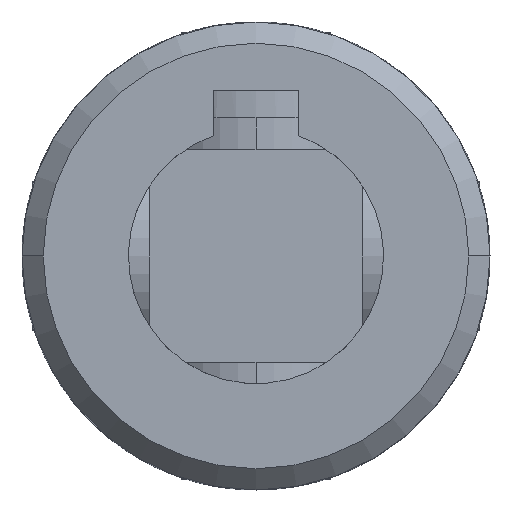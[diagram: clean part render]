
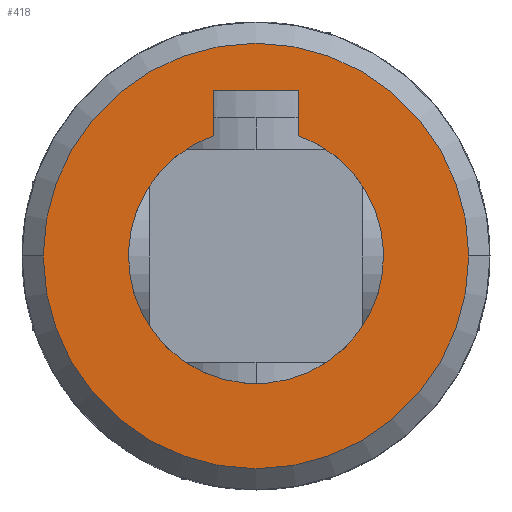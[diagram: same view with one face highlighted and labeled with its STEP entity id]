
A CAD part, left-side view. The second image highlights one B-rep face of the part: STEP entity #418.
In plain terms, the highlighted planar face has unit normal (-1, 0, 0).
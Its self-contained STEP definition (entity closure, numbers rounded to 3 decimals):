
#25 = CIRCLE ( 'NONE', #1665, 10. ) ;
#51 = CARTESIAN_POINT ( 'NONE',  ( 0., -2., 5.657 ) ) ;
#105 = CARTESIAN_POINT ( 'NONE',  ( 0., 0., 0. ) ) ;
#125 = VECTOR ( 'NONE', #1000, 1000. ) ;
#154 = EDGE_CURVE ( 'NONE', #2074, #1970, #820, .T. ) ;
#169 = ORIENTED_EDGE ( 'NONE', *, *, #846, .F. ) ;
#249 = CARTESIAN_POINT ( 'NONE',  ( 0., -10., 0. ) ) ;
#289 = CARTESIAN_POINT ( 'NONE',  ( 0., 2., 7.8 ) ) ;
#347 = VECTOR ( 'NONE', #2053, 1000. ) ;
#369 = VERTEX_POINT ( 'NONE', #2143 ) ;
#373 = CARTESIAN_POINT ( 'NONE',  ( 0., 0., 0. ) ) ;
#417 = DIRECTION ( 'NONE',  ( -1., 0., 0. ) ) ;
#418 = ADVANCED_FACE ( 'NONE', ( #1854, #671 ), #853, .T. ) ;
#538 = ORIENTED_EDGE ( 'NONE', *, *, #1618, .F. ) ;
#566 = AXIS2_PLACEMENT_3D ( 'NONE', #373, #417, #2175 ) ;
#584 = ORIENTED_EDGE ( 'NONE', *, *, #154, .F. ) ;
#652 = CARTESIAN_POINT ( 'NONE',  ( 0., 2., 5.657 ) ) ;
#671 = FACE_OUTER_BOUND ( 'NONE', #1383, .T. ) ;
#808 = CARTESIAN_POINT ( 'NONE',  ( 0., 2., 5.657 ) ) ;
#820 = CIRCLE ( 'NONE', #1781, 10. ) ;
#840 = ORIENTED_EDGE ( 'NONE', *, *, #1099, .F. ) ;
#846 = EDGE_CURVE ( 'NONE', #1296, #2311, #1890, .T. ) ;
#853 = PLANE ( 'NONE',  #1444 ) ;
#892 = DIRECTION ( 'NONE',  ( -1., 0., 0. ) ) ;
#971 = EDGE_CURVE ( 'NONE', #369, #1116, #1706, .T. ) ;
#994 = ORIENTED_EDGE ( 'NONE', *, *, #1600, .F. ) ;
#1000 = DIRECTION ( 'NONE',  ( 0., 0., 1. ) ) ;
#1099 = EDGE_CURVE ( 'NONE', #1116, #1296, #1584, .T. ) ;
#1116 = VERTEX_POINT ( 'NONE', #2137 ) ;
#1132 = VECTOR ( 'NONE', #2157, 1000. ) ;
#1252 = CARTESIAN_POINT ( 'NONE',  ( 0., 0., 0. ) ) ;
#1296 = VERTEX_POINT ( 'NONE', #808 ) ;
#1349 = CARTESIAN_POINT ( 'NONE',  ( 0., -2., 5.657 ) ) ;
#1383 = EDGE_LOOP ( 'NONE', ( #584, #994 ) ) ;
#1444 = AXIS2_PLACEMENT_3D ( 'NONE', #1252, #892, #2298 ) ;
#1533 = DIRECTION ( 'NONE',  ( 0., 1., 0. ) ) ;
#1584 = LINE ( 'NONE', #652, #1132 ) ;
#1600 = EDGE_CURVE ( 'NONE', #1970, #2074, #25, .T. ) ;
#1618 = EDGE_CURVE ( 'NONE', #2311, #369, #2061, .T. ) ;
#1649 = DIRECTION ( 'NONE',  ( 0., 1., 0. ) ) ;
#1665 = AXIS2_PLACEMENT_3D ( 'NONE', #105, #2257, #1533 ) ;
#1687 = ORIENTED_EDGE ( 'NONE', *, *, #971, .F. ) ;
#1706 = LINE ( 'NONE', #289, #347 ) ;
#1781 = AXIS2_PLACEMENT_3D ( 'NONE', #1835, #2209, #1649 ) ;
#1835 = CARTESIAN_POINT ( 'NONE',  ( 0., 0., 0. ) ) ;
#1854 = FACE_BOUND ( 'NONE', #1889, .T. ) ;
#1889 = EDGE_LOOP ( 'NONE', ( #840, #1687, #538, #169 ) ) ;
#1890 = CIRCLE ( 'NONE', #566, 6. ) ;
#1970 = VERTEX_POINT ( 'NONE', #249 ) ;
#2053 = DIRECTION ( 'NONE',  ( 0., 1., 0. ) ) ;
#2061 = LINE ( 'NONE', #1349, #125 ) ;
#2074 = VERTEX_POINT ( 'NONE', #2138 ) ;
#2137 = CARTESIAN_POINT ( 'NONE',  ( 0., 2., 7.8 ) ) ;
#2138 = CARTESIAN_POINT ( 'NONE',  ( 0., 10., 0. ) ) ;
#2143 = CARTESIAN_POINT ( 'NONE',  ( 0., -2., 7.8 ) ) ;
#2157 = DIRECTION ( 'NONE',  ( 0., 0., -1. ) ) ;
#2175 = DIRECTION ( 'NONE',  ( 0., 0., 1. ) ) ;
#2209 = DIRECTION ( 'NONE',  ( 1., 0., 0. ) ) ;
#2257 = DIRECTION ( 'NONE',  ( 1., 0., 0. ) ) ;
#2298 = DIRECTION ( 'NONE',  ( 0., -1., 0. ) ) ;
#2311 = VERTEX_POINT ( 'NONE', #51 ) ;
